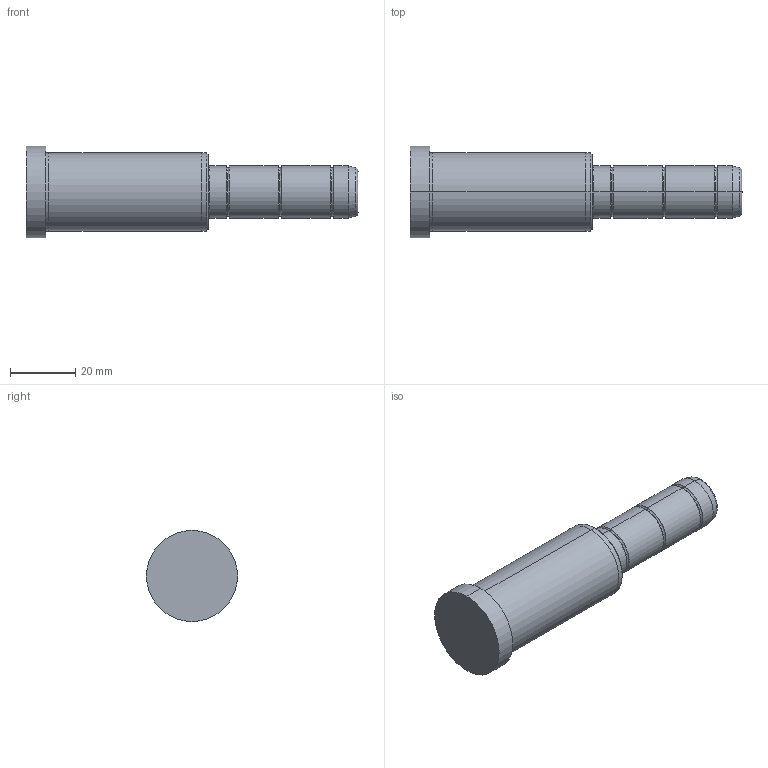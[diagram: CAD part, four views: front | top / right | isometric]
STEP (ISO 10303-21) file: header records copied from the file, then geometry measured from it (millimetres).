
FILE_DESCRIPTION( ( 'STEP AP203' ), '1' );
FILE_NAME( 'D:/Delta 3 D/D02/16/D02 - 16x56x46.step', '2003-01-04T13:10:43', ( ' ' ), ( ' ' ), 'XStep 1.0', ' ', ' ' );
FILE_SCHEMA( ( 'CONFIG_CONTROL_DESIGN' ) );
Length unit declared in the file: metre
Products named in the file (1): 1
Bounding box: 102 x 28 x 28 mm (x, y, z)
Volume: 35470.5 mm3; surface area: 7838.1 mm2
Topology: 1 solids, 1 shells, 42 faces, 82 edges, 46 vertices
Faces by surface type: bspline 22, revolution 20
Entity records: 1325 total; most frequent: CARTESIAN_POINT 517, ORIENTED_EDGE 164, DIRECTION 134, EDGE_CURVE 82, AXIS2_PLACEMENT_3D 47, EDGE_LOOP 46, VERTEX_POINT 46, CIRCLE 46
